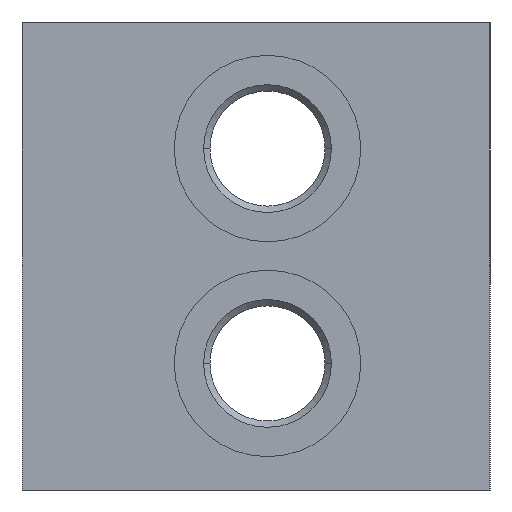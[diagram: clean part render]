
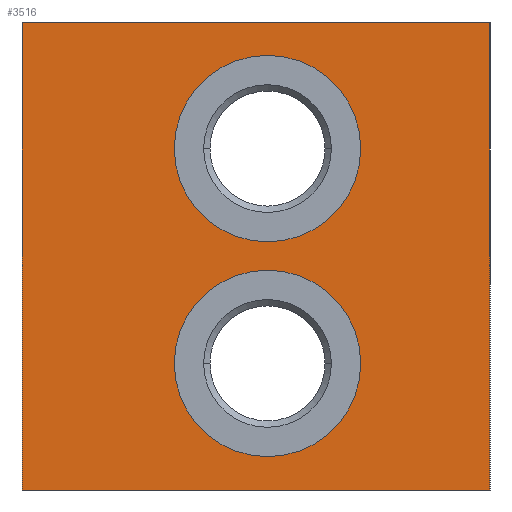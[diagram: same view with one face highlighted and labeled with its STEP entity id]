
A CAD part, left-side view. The second image highlights one B-rep face of the part: STEP entity #3516.
In plain terms, the highlighted planar face has unit normal (-1, 0, 0).
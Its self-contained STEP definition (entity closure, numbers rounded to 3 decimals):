
#25=DIRECTION('',(0.,-1.,0.));
#26=VECTOR('',#25,61.);
#27=CARTESIAN_POINT('',(0.,61.,0.));
#28=LINE('',#27,#26);
#97=DIRECTION('',(0.,0.,-1.));
#98=VECTOR('',#97,61.);
#99=CARTESIAN_POINT('',(0.,0.,0.));
#100=LINE('',#99,#98);
#679=DIRECTION('',(0.,0.,-1.));
#680=VECTOR('',#679,61.);
#681=CARTESIAN_POINT('',(0.,61.,0.));
#682=LINE('',#681,#680);
#683=CARTESIAN_POINT('',(0.,29.,-44.5));
#684=DIRECTION('',(1.,0.,0.));
#685=DIRECTION('',(0.,-1.,0.));
#686=AXIS2_PLACEMENT_3D('',#683,#684,#685);
#688=CARTESIAN_POINT('',(0.,29.,-44.5));
#689=DIRECTION('',(1.,0.,0.));
#690=DIRECTION('',(0.,1.,0.));
#691=AXIS2_PLACEMENT_3D('',#688,#689,#690);
#693=CARTESIAN_POINT('',(0.,29.,-16.5));
#694=DIRECTION('',(1.,0.,0.));
#695=DIRECTION('',(0.,-1.,0.));
#696=AXIS2_PLACEMENT_3D('',#693,#694,#695);
#698=CARTESIAN_POINT('',(0.,29.,-16.5));
#699=DIRECTION('',(1.,0.,0.));
#700=DIRECTION('',(0.,1.,0.));
#701=AXIS2_PLACEMENT_3D('',#698,#699,#700);
#715=DIRECTION('',(0.,-1.,0.));
#716=VECTOR('',#715,61.);
#717=CARTESIAN_POINT('',(0.,61.,-61.));
#718=LINE('',#717,#716);
#2693=CARTESIAN_POINT('',(0.,0.,0.));
#2695=VERTEX_POINT('',#2693);
#2699=CARTESIAN_POINT('',(0.,61.,0.));
#2700=VERTEX_POINT('',#2699);
#2701=CARTESIAN_POINT('',(0.,0.,-61.));
#2703=VERTEX_POINT('',#2701);
#2707=CARTESIAN_POINT('',(0.,61.,-61.));
#2708=VERTEX_POINT('',#2707);
#2721=CARTESIAN_POINT('',(0.,16.85,-44.5));
#2722=CARTESIAN_POINT('',(0.,41.15,-44.5));
#2723=VERTEX_POINT('',#2721);
#2724=VERTEX_POINT('',#2722);
#2737=CARTESIAN_POINT('',(0.,16.85,-16.5));
#2738=CARTESIAN_POINT('',(0.,41.15,-16.5));
#2739=VERTEX_POINT('',#2737);
#2740=VERTEX_POINT('',#2738);
#3492=CARTESIAN_POINT('',(0.,61.,0.));
#3493=DIRECTION('',(-1.,0.,0.));
#3494=DIRECTION('',(0.,-1.,0.));
#3495=AXIS2_PLACEMENT_3D('',#3492,#3493,#3494);
#3496=PLANE('',#3495);
#3497=ORIENTED_EDGE('',*,*,#3224,.T.);
#3498=ORIENTED_EDGE('',*,*,#3279,.T.);
#3500=ORIENTED_EDGE('',*,*,#3499,.F.);
#3501=ORIENTED_EDGE('',*,*,#3328,.F.);
#3502=EDGE_LOOP('',(#3497,#3498,#3500,#3501));
#3503=FACE_OUTER_BOUND('',#3502,.F.);
#3505=ORIENTED_EDGE('',*,*,#3504,.F.);
#3507=ORIENTED_EDGE('',*,*,#3506,.F.);
#3508=EDGE_LOOP('',(#3505,#3507));
#3509=FACE_BOUND('',#3508,.F.);
#3511=ORIENTED_EDGE('',*,*,#3510,.F.);
#3513=ORIENTED_EDGE('',*,*,#3512,.F.);
#3514=EDGE_LOOP('',(#3511,#3513));
#3515=FACE_BOUND('',#3514,.F.);
#687=CIRCLE('',#686,12.15);
#692=CIRCLE('',#691,12.15);
#697=CIRCLE('',#696,12.15);
#702=CIRCLE('',#701,12.15);
#3224=EDGE_CURVE('',#2700,#2695,#28,.T.);
#3279=EDGE_CURVE('',#2695,#2703,#100,.T.);
#3328=EDGE_CURVE('',#2700,#2708,#682,.T.);
#3499=EDGE_CURVE('',#2708,#2703,#718,.T.);
#3504=EDGE_CURVE('',#2723,#2724,#687,.T.);
#3506=EDGE_CURVE('',#2724,#2723,#692,.T.);
#3510=EDGE_CURVE('',#2739,#2740,#697,.T.);
#3512=EDGE_CURVE('',#2740,#2739,#702,.T.);
#3516=ADVANCED_FACE('',(#3503,#3509,#3515),#3496,.T.);
